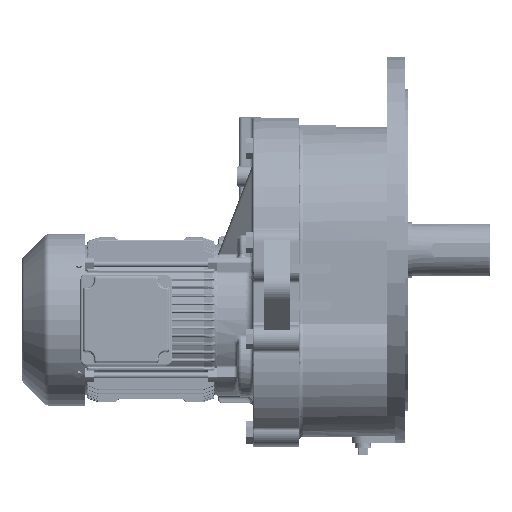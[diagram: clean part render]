
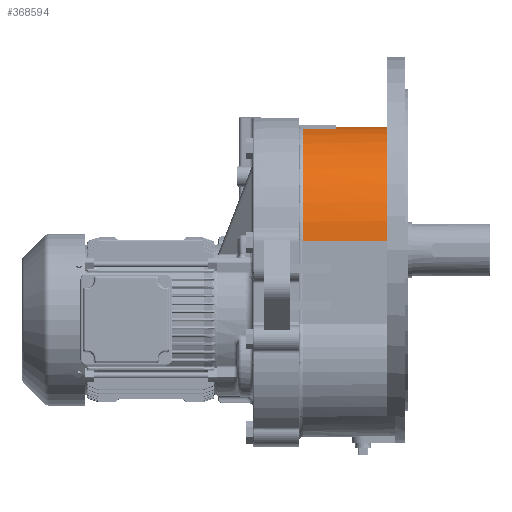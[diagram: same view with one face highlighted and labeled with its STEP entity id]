
A CAD part, top view. The second image highlights one B-rep face of the part: STEP entity #368594.
In plain terms, the highlighted cylindrical face has radius 154 mm (diameter 308 mm), a partial arc.
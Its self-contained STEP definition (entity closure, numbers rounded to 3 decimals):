
#3431 = LINE ( 'NONE', #79840, #126630 ) ;
#27087 = EDGE_CURVE ( 'NONE', #260053, #246805, #196169, .T. ) ;
#35483 = CIRCLE ( 'NONE', #440370, 154. ) ;
#49546 = CARTESIAN_POINT ( 'NONE',  ( 306.481, 45.518, 37.112 ) ) ;
#53980 = EDGE_CURVE ( 'NONE', #65763, #114275, #35483, .T. ) ;
#65763 = VERTEX_POINT ( 'NONE', #134766 ) ;
#79840 = CARTESIAN_POINT ( 'NONE',  ( 306.481, 196.049, 4.612 ) ) ;
#94947 = DIRECTION ( 'NONE',  ( 0., 0., 1. ) ) ;
#101719 = CARTESIAN_POINT ( 'NONE',  ( 227.481, 196.049, 4.612 ) ) ;
#114275 = VERTEX_POINT ( 'NONE', #179658 ) ;
#115253 = DIRECTION ( 'NONE',  ( -1., 0., 0. ) ) ;
#121306 = CYLINDRICAL_SURFACE ( 'NONE', #446344, 154. ) ;
#125434 = EDGE_LOOP ( 'NONE', ( #459029, #404742, #423179, #339185, #459426, #263237, #280967, #450414 ) ) ;
#125754 = CARTESIAN_POINT ( 'NONE',  ( 227.481, 196.049, 69.612 ) ) ;
#126630 = VECTOR ( 'NONE', #441042, 1000. ) ;
#134766 = CARTESIAN_POINT ( 'NONE',  ( 295.481, 45.518, -116.888 ) ) ;
#153589 = CARTESIAN_POINT ( 'NONE',  ( 182.481, 45.518, 37.112 ) ) ;
#168971 = VECTOR ( 'NONE', #115253, 1000. ) ;
#174065 = DIRECTION ( 'NONE',  ( -1., 0., 0. ) ) ;
#179658 = CARTESIAN_POINT ( 'NONE',  ( 295.481, 45.518, 191.112 ) ) ;
#187031 = CARTESIAN_POINT ( 'NONE',  ( 306.481, 45.518, -116.888 ) ) ;
#189022 = CIRCLE ( 'NONE', #204101, 154. ) ;
#189856 = EDGE_CURVE ( 'NONE', #114275, #246805, #448549, .T. ) ;
#196169 = CIRCLE ( 'NONE', #257389, 154. ) ;
#204101 = AXIS2_PLACEMENT_3D ( 'NONE', #234774, #301806, #457144 ) ;
#213894 = VECTOR ( 'NONE', #233267, 1000. ) ;
#216215 = VERTEX_POINT ( 'NONE', #376604 ) ;
#222621 = DIRECTION ( 'NONE',  ( 0., 0., 1. ) ) ;
#223471 = VERTEX_POINT ( 'NONE', #125754 ) ;
#226754 = VERTEX_POINT ( 'NONE', #101719 ) ;
#231155 = EDGE_CURVE ( 'NONE', #223471, #260053, #279446, .T. ) ;
#233267 = DIRECTION ( 'NONE',  ( -1., 0., 0. ) ) ;
#234774 = CARTESIAN_POINT ( 'NONE',  ( 182.481, 45.518, 37.112 ) ) ;
#238846 = CARTESIAN_POINT ( 'NONE',  ( 306.481, 196.049, 69.612 ) ) ;
#246805 = VERTEX_POINT ( 'NONE', #397092 ) ;
#257389 = AXIS2_PLACEMENT_3D ( 'NONE', #153589, #299644, #373860 ) ;
#258950 = LINE ( 'NONE', #187031, #168971 ) ;
#259431 = CARTESIAN_POINT ( 'NONE',  ( 182.481, 45.518, -116.888 ) ) ;
#260053 = VERTEX_POINT ( 'NONE', #311406 ) ;
#263237 = ORIENTED_EDGE ( 'NONE', *, *, #53980, .F. ) ;
#267410 = DIRECTION ( 'NONE',  ( -1., 0., 0. ) ) ;
#270307 = CARTESIAN_POINT ( 'NONE',  ( 295.481, 45.518, 37.112 ) ) ;
#278064 = VERTEX_POINT ( 'NONE', #259431 ) ;
#279446 = LINE ( 'NONE', #238846, #344855 ) ;
#280967 = ORIENTED_EDGE ( 'NONE', *, *, #294120, .T. ) ;
#283959 = CARTESIAN_POINT ( 'NONE',  ( 227.481, 45.518, 37.112 ) ) ;
#294120 = EDGE_CURVE ( 'NONE', #65763, #278064, #258950, .T. ) ;
#299644 = DIRECTION ( 'NONE',  ( 1., 0., 0. ) ) ;
#301806 = DIRECTION ( 'NONE',  ( 1., 0., 0. ) ) ;
#303797 = DIRECTION ( 'NONE',  ( 1., 0., 0. ) ) ;
#311406 = CARTESIAN_POINT ( 'NONE',  ( 182.481, 196.049, 69.612 ) ) ;
#324154 = EDGE_CURVE ( 'NONE', #226754, #223471, #364280, .T. ) ;
#339185 = ORIENTED_EDGE ( 'NONE', *, *, #27087, .T. ) ;
#341427 = FACE_OUTER_BOUND ( 'NONE', #125434, .T. ) ;
#344855 = VECTOR ( 'NONE', #174065, 1000. ) ;
#364280 = CIRCLE ( 'NONE', #379360, 154. ) ;
#368594 = ADVANCED_FACE ( 'NONE', ( #341427 ), #121306, .T. ) ;
#373860 = DIRECTION ( 'NONE',  ( 0., 0., 1. ) ) ;
#376604 = CARTESIAN_POINT ( 'NONE',  ( 182.481, 196.049, 4.612 ) ) ;
#379360 = AXIS2_PLACEMENT_3D ( 'NONE', #283959, #382259, #94947 ) ;
#382259 = DIRECTION ( 'NONE',  ( 1., 0., 0. ) ) ;
#388146 = CARTESIAN_POINT ( 'NONE',  ( 306.481, 45.518, 191.112 ) ) ;
#397092 = CARTESIAN_POINT ( 'NONE',  ( 182.481, 45.518, 191.112 ) ) ;
#404742 = ORIENTED_EDGE ( 'NONE', *, *, #324154, .T. ) ;
#412735 = EDGE_CURVE ( 'NONE', #216215, #226754, #3431, .T. ) ;
#413162 = DIRECTION ( 'NONE',  ( 0., 0., 1. ) ) ;
#413746 = EDGE_CURVE ( 'NONE', #278064, #216215, #189022, .T. ) ;
#423179 = ORIENTED_EDGE ( 'NONE', *, *, #231155, .T. ) ;
#440370 = AXIS2_PLACEMENT_3D ( 'NONE', #270307, #303797, #222621 ) ;
#441042 = DIRECTION ( 'NONE',  ( 1., 0., 0. ) ) ;
#446344 = AXIS2_PLACEMENT_3D ( 'NONE', #49546, #267410, #413162 ) ;
#448549 = LINE ( 'NONE', #388146, #213894 ) ;
#450414 = ORIENTED_EDGE ( 'NONE', *, *, #413746, .T. ) ;
#457144 = DIRECTION ( 'NONE',  ( 0., 0., 1. ) ) ;
#459029 = ORIENTED_EDGE ( 'NONE', *, *, #412735, .T. ) ;
#459426 = ORIENTED_EDGE ( 'NONE', *, *, #189856, .F. ) ;
